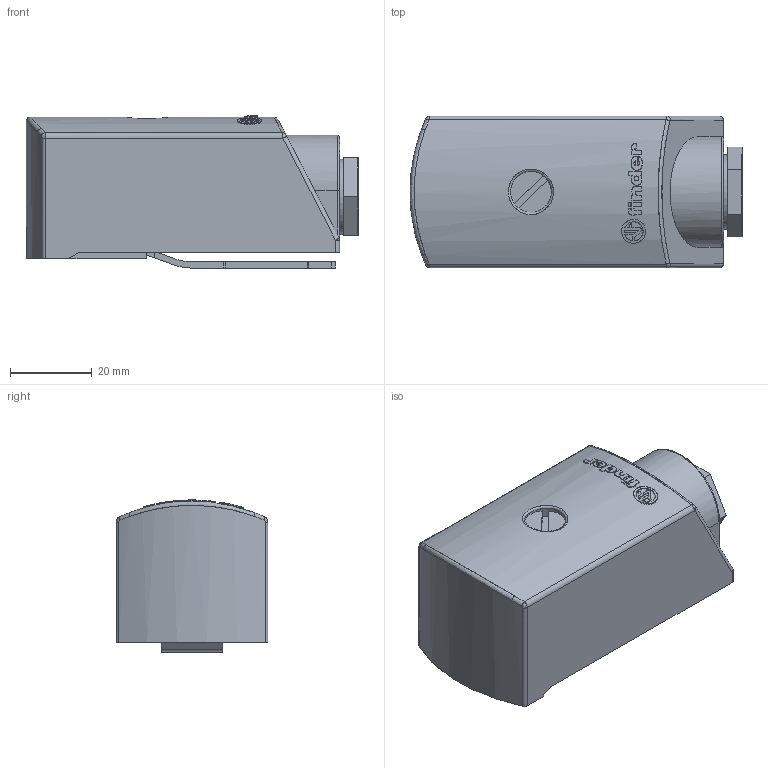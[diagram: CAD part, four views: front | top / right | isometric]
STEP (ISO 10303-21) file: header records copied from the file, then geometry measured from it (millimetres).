
FILE_DESCRIPTION(('STEP AP214'),'2;1');
FILE_NAME('10_51---catalogo_OK.stp','2011-04-07T10:32:52',(''),(''),'2007.1.106','THINKDESIGN','');
FILE_SCHEMA(('AUTOMOTIVE_DESIGN'));
Length unit declared in the file: millimetre
Products named in the file (1): None
Bounding box: 81 x 37 x 37.1 mm (x, y, z)
Surface area: 22747.9 mm2 (no closed solid volume)
Topology: 0 solids, 0 shells, 292 faces, 1551 edges, 1541 vertices
Faces by surface type: plane 165, cylinder 95, bspline 32
Full cylindrical faces by diameter (mm): 4.2 x1, 5.85 x1, 7 x1, 8 x1, 9.4 x1, 10 x2, 15 x4, 18.2 x1
Entity records: 18339 total; most frequent: CARTESIAN_POINT 8051, DIRECTION 1615, COMPOSITE_CURVE_SEGMENT 1549, TRIMMED_CURVE 983, VECTOR 893, LINE 893, AXIS2_PLACEMENT_3D 361, B_SPLINE_CURVE_WITH_KNOTS 303
